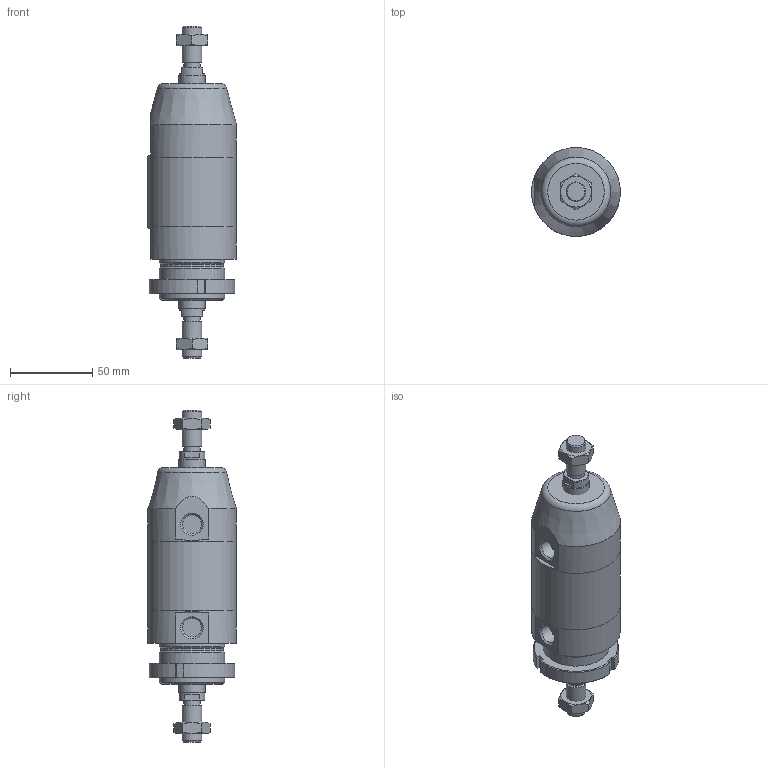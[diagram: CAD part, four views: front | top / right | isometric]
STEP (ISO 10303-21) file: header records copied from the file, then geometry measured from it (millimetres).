
FILE_DESCRIPTION(/* description */ (''),/* implementation_level */ '2;1');
FILE_NAME(/* name */ 'I:\Area Tecnica\Documenti\A-Manieri\_Inventor\12X\12X#T_###_####_#_#\12XCT_050_0000_#_#.stp',/* time_stamp */ '2015-05-13T08:45:49+02:00',/* author */ ('maniean1'),/* organization */ ('Pneumax S.p.A.'),/* preprocessor_version */ 'ST-DEVELOPER v15.2',/* originating_system */ 'Autodesk Inventor 2014',/* authorisation */ '');
FILE_SCHEMA (('AUTOMOTIVE_DESIGN { 1 0 10303 214 3 1 1 }'));
Length unit declared in the file: millimetre
Products named in the file (7): C1250_619-0000; 12X50_604; SP12X50_0000; 12X_50_11; 12X50_613; G12X_050_05; 12XCT_050_0000_#_#
Bounding box: 54 x 54 x 202 mm (x, y, z)
Volume: 283757.2 mm3; surface area: 64401.3 mm2
Topology: 7 solids, 7 shells, 107 faces, 238 edges, 152 vertices
Faces by surface type: plane 54, cylinder 26, cone 26, torus 1
Full cylindrical faces by diameter (mm): 10.2 x2, 11.4 x2, 12 x4, 14 x2, 15.6 x2, 16 x2, 38.2 x1, 40 x3, 50 x2, 54 x3
Entity records: 2546 total; most frequent: CARTESIAN_POINT 474, DIRECTION 433, ORIENTED_EDGE 338, AXIS2_PLACEMENT_3D 187, EDGE_CURVE 169, EDGE_LOOP 150, VERTEX_POINT 129, ADVANCED_FACE 96
